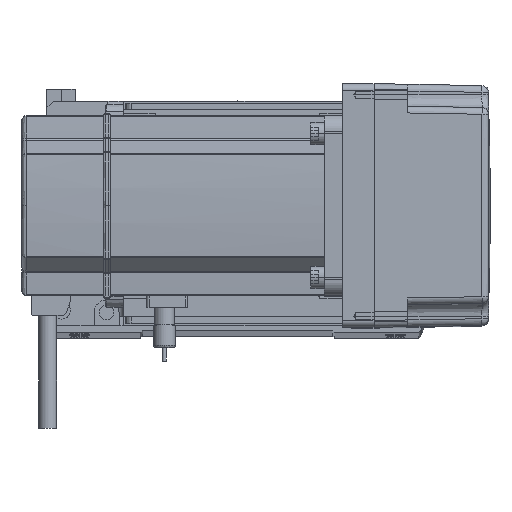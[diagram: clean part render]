
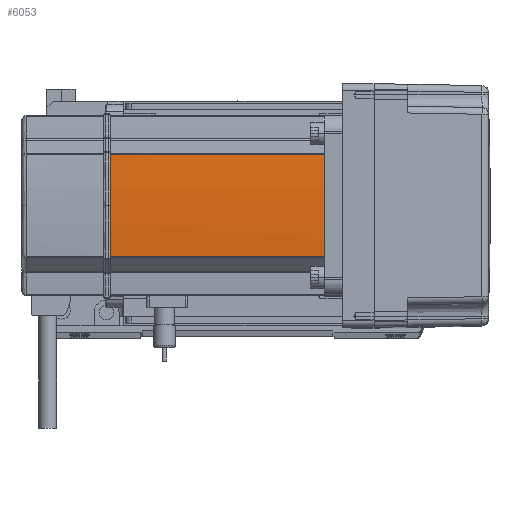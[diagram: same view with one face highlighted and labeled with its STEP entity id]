
A CAD part, top view. The second image highlights one B-rep face of the part: STEP entity #6053.
In plain terms, the highlighted cylindrical face has radius 270 mm (diameter 540 mm), a partial arc.
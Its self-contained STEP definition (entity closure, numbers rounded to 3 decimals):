
#1265 = DIRECTION ( 'NONE',  ( 1., 0., 0. ) ) ;
#1738 = AXIS2_PLACEMENT_3D ( 'NONE', #21632, #21244, #44265 ) ;
#3516 = CARTESIAN_POINT ( 'NONE',  ( -39.042, -22.724, 0. ) ) ;
#5008 = CARTESIAN_POINT ( 'NONE',  ( -39.042, 22.724, 39. ) ) ;
#5682 = DIRECTION ( 'NONE',  ( 1., 0., 0. ) ) ;
#6053 = ADVANCED_FACE ( 'NONE', ( #57510 ), #56784, .T. ) ;
#8418 = CIRCLE ( 'NONE', #9851, 270. ) ;
#9131 = EDGE_CURVE ( 'NONE', #34812, #43352, #15490, .T. ) ;
#9560 = EDGE_CURVE ( 'NONE', #34044, #9932, #52910, .T. ) ;
#9851 = AXIS2_PLACEMENT_3D ( 'NONE', #50264, #22476, #27297 ) ;
#9932 = VERTEX_POINT ( 'NONE', #5008 ) ;
#10302 = ORIENTED_EDGE ( 'NONE', *, *, #24674, .T. ) ;
#10721 = DIRECTION ( 'NONE',  ( 0., 0., -1. ) ) ;
#14686 = ORIENTED_EDGE ( 'NONE', *, *, #9560, .T. ) ;
#15490 = LINE ( 'NONE', #3516, #24126 ) ;
#17016 = VERTEX_POINT ( 'NONE', #30873 ) ;
#19131 = CARTESIAN_POINT ( 'NONE',  ( -39.042, -22.724, 39. ) ) ;
#21244 = DIRECTION ( 'NONE',  ( 0., 0., -1. ) ) ;
#21632 = CARTESIAN_POINT ( 'NONE',  ( 230., 0., 134. ) ) ;
#22476 = DIRECTION ( 'NONE',  ( 0., 0., -1. ) ) ;
#22827 = AXIS2_PLACEMENT_3D ( 'NONE', #51729, #38470, #1265 ) ;
#24126 = VECTOR ( 'NONE', #53784, 1000. ) ;
#24201 = CIRCLE ( 'NONE', #1738, 270. ) ;
#24674 = EDGE_CURVE ( 'NONE', #17016, #34044, #24201, .T. ) ;
#27297 = DIRECTION ( 'NONE',  ( 1., 0., 0. ) ) ;
#30873 = CARTESIAN_POINT ( 'NONE',  ( -40., 0., 134. ) ) ;
#33006 = CARTESIAN_POINT ( 'NONE',  ( -39.042, 22.724, 134. ) ) ;
#33408 = CARTESIAN_POINT ( 'NONE',  ( 230., 0., 39. ) ) ;
#34044 = VERTEX_POINT ( 'NONE', #33006 ) ;
#34511 = ORIENTED_EDGE ( 'NONE', *, *, #50632, .T. ) ;
#34812 = VERTEX_POINT ( 'NONE', #19131 ) ;
#35023 = DIRECTION ( 'NONE',  ( 0., 0., -1. ) ) ;
#37740 = CIRCLE ( 'NONE', #59005, 270. ) ;
#38470 = DIRECTION ( 'NONE',  ( 0., 0., 1. ) ) ;
#39049 = CARTESIAN_POINT ( 'NONE',  ( -39.042, 22.724, 0. ) ) ;
#39074 = CARTESIAN_POINT ( 'NONE',  ( -39.042, -22.724, 134. ) ) ;
#39106 = ORIENTED_EDGE ( 'NONE', *, *, #9131, .T. ) ;
#40664 = VECTOR ( 'NONE', #35023, 1000. ) ;
#43352 = VERTEX_POINT ( 'NONE', #39074 ) ;
#44265 = DIRECTION ( 'NONE',  ( 1., 0., 0. ) ) ;
#46720 = EDGE_LOOP ( 'NONE', ( #34511, #10302, #14686, #54965, #39106 ) ) ;
#50264 = CARTESIAN_POINT ( 'NONE',  ( 230., 0., 134. ) ) ;
#50632 = EDGE_CURVE ( 'NONE', #43352, #17016, #8418, .T. ) ;
#51729 = CARTESIAN_POINT ( 'NONE',  ( 230., 0., 0. ) ) ;
#52910 = LINE ( 'NONE', #39049, #40664 ) ;
#53784 = DIRECTION ( 'NONE',  ( 0., 0., 1. ) ) ;
#54965 = ORIENTED_EDGE ( 'NONE', *, *, #55439, .F. ) ;
#55439 = EDGE_CURVE ( 'NONE', #34812, #9932, #37740, .T. ) ;
#56784 = CYLINDRICAL_SURFACE ( 'NONE', #22827, 270. ) ;
#57510 = FACE_OUTER_BOUND ( 'NONE', #46720, .T. ) ;
#59005 = AXIS2_PLACEMENT_3D ( 'NONE', #33408, #10721, #5682 ) ;
